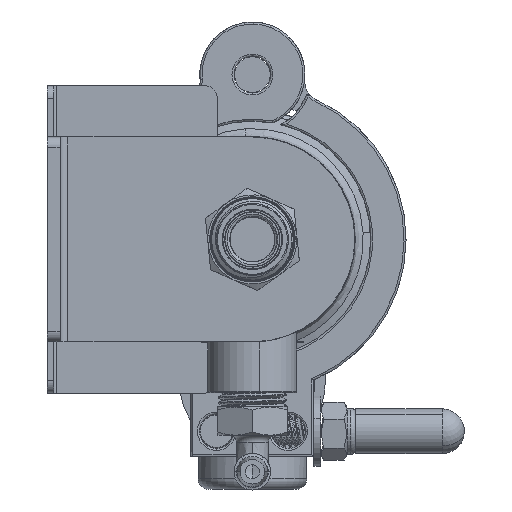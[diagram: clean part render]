
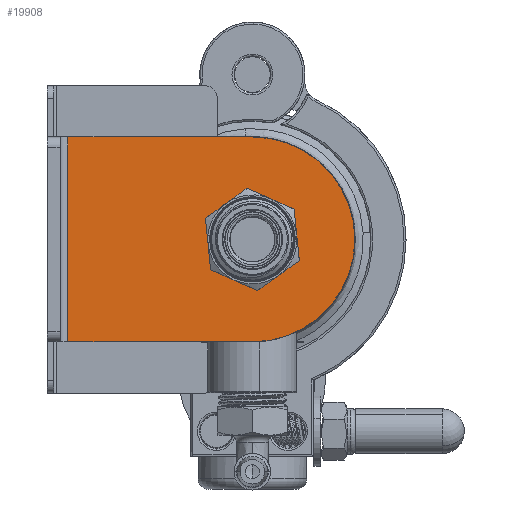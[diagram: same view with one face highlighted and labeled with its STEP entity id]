
A CAD part, left-side view. The second image highlights one B-rep face of the part: STEP entity #19908.
In plain terms, the highlighted planar face has unit normal (-1, 0, 0).
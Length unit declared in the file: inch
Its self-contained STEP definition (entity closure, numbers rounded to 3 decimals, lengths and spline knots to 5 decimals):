
#102 = VERTEX_POINT ( 'NONE', #3536 ) ;
#1110 = AXIS2_PLACEMENT_3D ( 'NONE', #10538, #38047, #14470 ) ;
#3403 = DIRECTION ( 'NONE',  ( 0., 0., 1. ) ) ;
#3536 = CARTESIAN_POINT ( 'NONE',  ( -4.625, -1., 0. ) ) ;
#3623 = VERTEX_POINT ( 'NONE', #36925 ) ;
#3935 = AXIS2_PLACEMENT_3D ( 'NONE', #4776, #32262, #8732 ) ;
#4776 = CARTESIAN_POINT ( 'NONE',  ( -4.625, 0., 0. ) ) ;
#5048 = LINE ( 'NONE', #31314, #15454 ) ;
#6185 = CARTESIAN_POINT ( 'NONE',  ( -4.625, 0., 0. ) ) ;
#8732 = DIRECTION ( 'NONE',  ( 0., -1., 0. ) ) ;
#9728 = CARTESIAN_POINT ( 'NONE',  ( -4.625, 0., 0. ) ) ;
#9936 = CARTESIAN_POINT ( 'NONE',  ( -4.625, 0., -1. ) ) ;
#9980 = AXIS2_PLACEMENT_3D ( 'NONE', #6185, #33644, #10114 ) ;
#10114 = DIRECTION ( 'NONE',  ( 0., -1., 0. ) ) ;
#10351 = EDGE_CURVE ( 'NONE', #102, #45255, #25177, .T. ) ;
#10538 = CARTESIAN_POINT ( 'NONE',  ( -4.625, 0., 0. ) ) ;
#10604 = VERTEX_POINT ( 'NONE', #50277 ) ;
#11366 = AXIS2_PLACEMENT_3D ( 'NONE', #18705, #46224, #22647 ) ;
#13589 = VERTEX_POINT ( 'NONE', #48813 ) ;
#13661 = DIRECTION ( 'NONE',  ( 0., -1., 0. ) ) ;
#14315 = ORIENTED_EDGE ( 'NONE', *, *, #35014, .F. ) ;
#14470 = DIRECTION ( 'NONE',  ( 0., -1., 0. ) ) ;
#15454 = VECTOR ( 'NONE', #51059, 39.37008 ) ;
#16050 = CARTESIAN_POINT ( 'NONE',  ( -4.625, 0., -1. ) ) ;
#17126 = VERTEX_POINT ( 'NONE', #43837 ) ;
#17345 = EDGE_CURVE ( 'NONE', #3623, #13589, #30901, .T. ) ;
#18705 = CARTESIAN_POINT ( 'NONE',  ( -4.625, 0., 0. ) ) ;
#19128 = VECTOR ( 'NONE', #37277, 39.37008 ) ;
#19765 = FACE_OUTER_BOUND ( 'NONE', #45230, .T. ) ;
#19908 = ADVANCED_FACE ( 'NONE', ( #49923, #19765 ), #41021, .F. ) ;
#22512 = ORIENTED_EDGE ( 'NONE', *, *, #10351, .F. ) ;
#22647 = DIRECTION ( 'NONE',  ( 0., -1., 0. ) ) ;
#23580 = LINE ( 'NONE', #30907, #34058 ) ;
#24098 = EDGE_CURVE ( 'NONE', #13589, #3623, #32935, .T. ) ;
#24659 = VERTEX_POINT ( 'NONE', #26456 ) ;
#25177 = CIRCLE ( 'NONE', #3935, 1. ) ;
#26157 = EDGE_CURVE ( 'NONE', #24659, #17126, #5048, .T. ) ;
#26456 = CARTESIAN_POINT ( 'NONE',  ( -4.625, 1.8, 1. ) ) ;
#28294 = ORIENTED_EDGE ( 'NONE', *, *, #24098, .T. ) ;
#28358 = CIRCLE ( 'NONE', #9980, 1. ) ;
#30901 = CIRCLE ( 'NONE', #11366, 0.3375 ) ;
#30907 = CARTESIAN_POINT ( 'NONE',  ( -4.625, 1.8, -1. ) ) ;
#31314 = CARTESIAN_POINT ( 'NONE',  ( -4.625, 0., 1. ) ) ;
#32262 = DIRECTION ( 'NONE',  ( 1., 0., 0. ) ) ;
#32935 = CIRCLE ( 'NONE', #1110, 0.3375 ) ;
#33202 = EDGE_LOOP ( 'NONE', ( #28294, #47652 ) ) ;
#33644 = DIRECTION ( 'NONE',  ( 1., 0., 0. ) ) ;
#34058 = VECTOR ( 'NONE', #3403, 39.37008 ) ;
#35014 = EDGE_CURVE ( 'NONE', #45255, #10604, #49263, .T. ) ;
#35028 = EDGE_CURVE ( 'NONE', #17126, #102, #28358, .T. ) ;
#35463 = ORIENTED_EDGE ( 'NONE', *, *, #35028, .F. ) ;
#36204 = ORIENTED_EDGE ( 'NONE', *, *, #26157, .F. ) ;
#36925 = CARTESIAN_POINT ( 'NONE',  ( -4.625, 0.3375, 0. ) ) ;
#37226 = DIRECTION ( 'NONE',  ( 1., 0., 0. ) ) ;
#37277 = DIRECTION ( 'NONE',  ( 0., 1., 0. ) ) ;
#38047 = DIRECTION ( 'NONE',  ( 1., 0., 0. ) ) ;
#39547 = EDGE_CURVE ( 'NONE', #10604, #24659, #23580, .T. ) ;
#41021 = PLANE ( 'NONE',  #43704 ) ;
#43704 = AXIS2_PLACEMENT_3D ( 'NONE', #9728, #37226, #13661 ) ;
#43837 = CARTESIAN_POINT ( 'NONE',  ( -4.625, 0., 1. ) ) ;
#45230 = EDGE_LOOP ( 'NONE', ( #49523, #14315, #22512, #35463, #36204 ) ) ;
#45255 = VERTEX_POINT ( 'NONE', #16050 ) ;
#46224 = DIRECTION ( 'NONE',  ( 1., 0., 0. ) ) ;
#47652 = ORIENTED_EDGE ( 'NONE', *, *, #17345, .T. ) ;
#48813 = CARTESIAN_POINT ( 'NONE',  ( -4.625, -0.3375, 0. ) ) ;
#49263 = LINE ( 'NONE', #9936, #19128 ) ;
#49523 = ORIENTED_EDGE ( 'NONE', *, *, #39547, .F. ) ;
#49923 = FACE_BOUND ( 'NONE', #33202, .T. ) ;
#50277 = CARTESIAN_POINT ( 'NONE',  ( -4.625, 1.8, -1. ) ) ;
#51059 = DIRECTION ( 'NONE',  ( 0., -1., 0. ) ) ;
